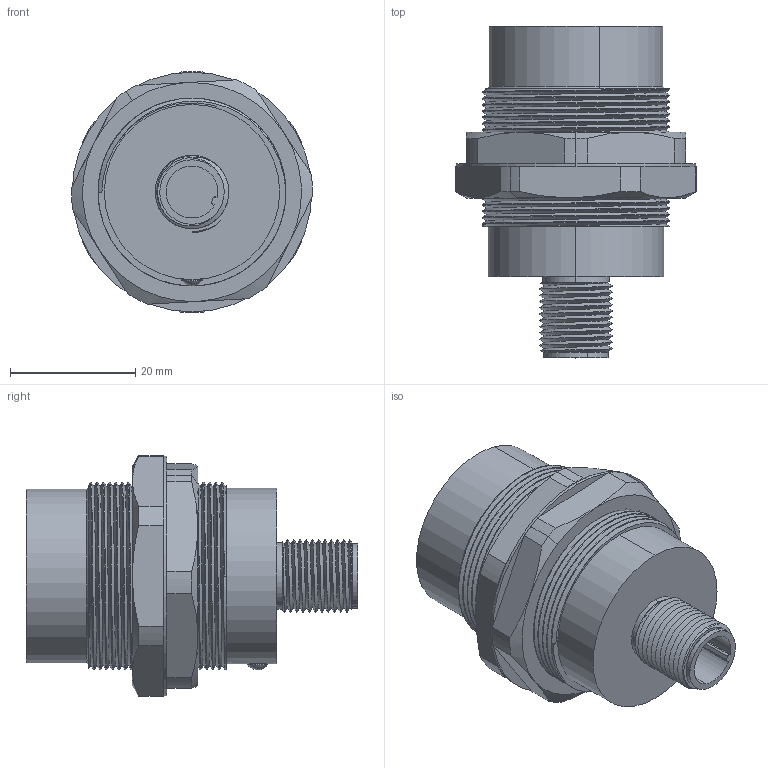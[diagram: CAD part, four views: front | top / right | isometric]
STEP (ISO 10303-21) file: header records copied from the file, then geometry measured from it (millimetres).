
FILE_DESCRIPTION (( 'STEP AP214' ), '1' );
FILE_NAME ('IPS30 SOKETLÝ MODEL.STEP', '2022-06-24T07:15:43', ( '' ), ( '' ), 'SwSTEP 2.0', 'SolidWorks 2014', '' );
FILE_SCHEMA (( 'AUTOMOTIVE_DESIGN' ));
Length unit declared in the file: millimetre
Products named in the file (1): IPS30 SOKETLÝ MODEL
Bounding box: 38.49 x 53 x 38.49 mm (x, y, z)
Surface area: 11324.9 mm2 (no closed solid volume)
Topology: 0 solids, 8 shells, 135 faces, 376 edges, 250 vertices
Faces by surface type: cylinder 77, plane 28, cone 22, bspline 6, sphere 2
Entity records: 10750 total; most frequent: CARTESIAN_POINT 6096, ORIENTED_EDGE 699, DIRECTION 604, EDGE_CURVE 376, VERTEX_POINT 250, AXIS2_PLACEMENT_3D 236, EDGE_LOOP 147, UNCERTAINTY_MEASURE_WITH_UNIT 137
